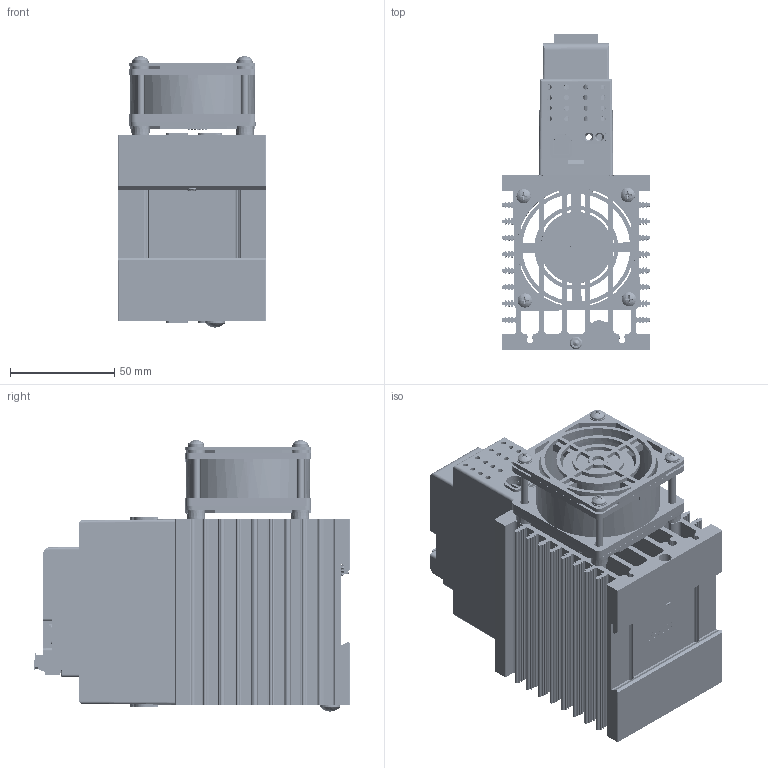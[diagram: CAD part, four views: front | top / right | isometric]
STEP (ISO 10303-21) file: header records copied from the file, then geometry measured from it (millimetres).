
FILE_DESCRIPTION(/* description */ (''),/* implementation_level */ '2;1');
FILE_NAME(/* name */ '1-phase EtherCAT 80A.stp',/* time_stamp */ '2024-11-12T08:57:06-06:00',/* author */ ('ErikG'),/* organization */ (''),/* preprocessor_version */ 'ST-DEVELOPER v20',/* originating_system */ 'Autodesk Inventor 2025',/* authorisation */ '');
FILE_SCHEMA (('AUTOMOTIVE_DESIGN { 1 0 10303 214 3 1 1 }'));
Products named in the file (35): 3001631e; 3001761; 1001600G; P11; P6; fci 6 pin header OQ06120000J0G; fci 6 pin headerOQ06120000J0G half 1; fci 5 pin header OQ05120000J0G half 2; fci 6 pin connector TS06110B00J0G; fci 5 pin connector TS05110B00J0G LEFT HALF; fci 5 pin connector TS05110B00J0G RIGHT HALF; P3; usb-c31-s-vt-cs4-bk-pp-t-r-model ADAMTECH; P5; 74990101210 (rev1); base; shielding; top board erase; SW3; SW2; SH-7070TA; _SH-7070A_body; _SH-700-Without knob (Minus slot); 3001763; 3001755; 3001756; 3001747; 0060702-1032-0375; 0060783-0610-010.ipt; spring; 0060002-0632-1175; 62111-0006-0; 2R36_SQ_FAN_1R0 depth; 3001773; 3001772
Assembly tree (44 placements, depth 6):
  3001631e
    3001761  x3
    1001600G
      P11
        74990101210 (rev1)
          base
          shielding
      P6
        fci 6 pin header OQ06120000J0G
          fci 6 pin headerOQ06120000J0G half 1
          fci 5 pin header OQ05120000J0G half 2
          fci 6 pin connector TS06110B00J0G
            fci 5 pin connector TS05110B00J0G LEFT HALF
            fci 5 pin connector TS05110B00J0G RIGHT HALF
      P3
        usb-c31-s-vt-cs4-bk-pp-t-r-model ADAMTECH
      P5
        74990101210 (rev1)
          base
          shielding
      top board erase
        SW3
          SH-7070TA
            _SH-7070A_body
            _SH-700-Without knob (Minus slot)
        SW2
          SH-7070TA
            _SH-7070A_body
            _SH-700-Without knob (Minus slot)
    3001763
    3001755
    3001756
    3001747
    0060702-1032-0375
    0060783-0610-010.ipt
    spring
    0060002-0632-1175  x4
    62111-0006-0  x4
    2R36_SQ_FAN_1R0 depth
    3001773
    3001772
Bounding box: 71.12 x 151.58 x 130.1 mm (x, y, z)
Volume: 307294.5 mm3; surface area: 249520.6 mm2
Topology: 35 solids, 129 shells, 10170 faces, 28418 edges, 18672 vertices
Faces by surface type: plane 7768, cylinder 1840, cone 286, bspline 163, torus 90, sphere 23
Full cylindrical faces by diameter (mm): 0.254 x1, 0.45 x2, 0.55 x2, 0.65 x2, 1 x2, 1.2 x2, 2.3 x12, 2.642 x3, 2.95 x6, 3.277 x2, 3.28 x2, 3.3 x2, 3.4 x2, 3.42 x2, 3.505 x4, 4 x2, 4.293 x8, 4.826 x1, 4.917 x1, 6 x1, 6.172 x1, 6.858 x4, 7.493 x8, 9.474 x1, 34.29 x1, 57.15 x1, 59.69 x1
Entity records: 262891 total; most frequent: CARTESIAN_POINT 61944, ORIENTED_EDGE 42546, DIRECTION 39245, EDGE_CURVE 21273, LINE 16803, VECTOR 16803, VERTEX_POINT 13984, AXIS2_PLACEMENT_3D 11221
